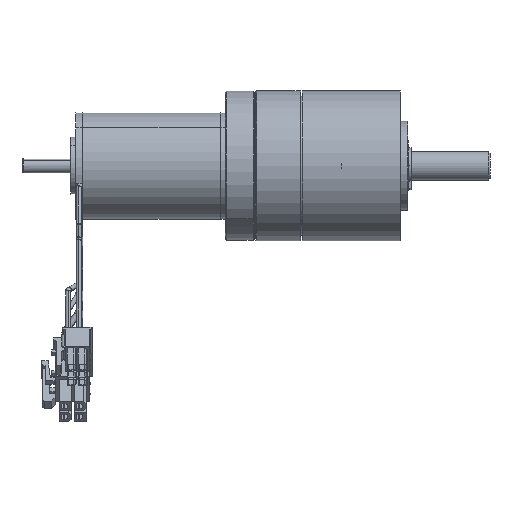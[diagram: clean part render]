
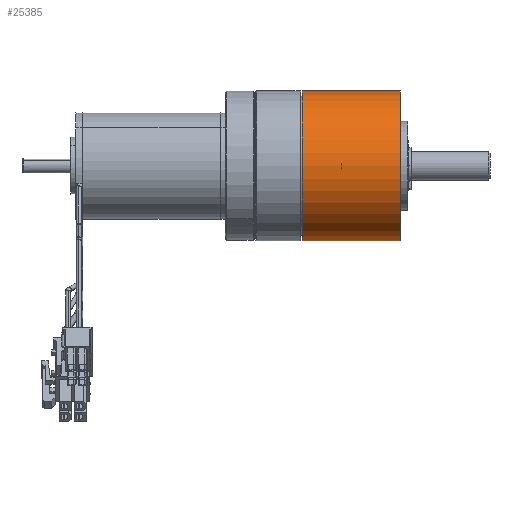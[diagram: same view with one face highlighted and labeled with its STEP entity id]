
A CAD part, front view. The second image highlights one B-rep face of the part: STEP entity #25385.
In plain terms, the highlighted cylindrical face has radius 21 mm (diameter 42 mm), a partial arc.
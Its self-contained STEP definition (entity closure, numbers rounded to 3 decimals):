
#3570 = ORIENTED_EDGE ( 'NONE', *, *, #33688, .T. ) ;
#4868 = FACE_OUTER_BOUND ( 'NONE', #21593, .T. ) ;
#6228 = AXIS2_PLACEMENT_3D ( 'NONE', #12636, #41901, #13669 ) ;
#6627 = CIRCLE ( 'NONE', #43755, 21. ) ;
#6799 = LINE ( 'NONE', #8210, #45381 ) ;
#8210 = CARTESIAN_POINT ( 'NONE',  ( -3.475, 0., -21. ) ) ;
#11434 = DIRECTION ( 'NONE',  ( -1., 0., 0. ) ) ;
#11742 = EDGE_CURVE ( 'NONE', #44141, #31765, #6627, .T. ) ;
#12636 = CARTESIAN_POINT ( 'NONE',  ( -2., 0., 0. ) ) ;
#13669 = DIRECTION ( 'NONE',  ( 0., 0., -1. ) ) ;
#16204 = CARTESIAN_POINT ( 'NONE',  ( 25.5, 0., 21. ) ) ;
#16415 = DIRECTION ( 'NONE',  ( 1., 0., 0. ) ) ;
#20843 = DIRECTION ( 'NONE',  ( 1., 0., 0. ) ) ;
#21593 = EDGE_LOOP ( 'NONE', ( #28540, #3570, #28102, #28104 ) ) ;
#22407 = CYLINDRICAL_SURFACE ( 'NONE', #30648, 21. ) ;
#25385 = ADVANCED_FACE ( 'NONE', ( #4868 ), #22407, .T. ) ;
#28102 = ORIENTED_EDGE ( 'NONE', *, *, #33250, .T. ) ;
#28104 = ORIENTED_EDGE ( 'NONE', *, *, #11742, .T. ) ;
#28540 = ORIENTED_EDGE ( 'NONE', *, *, #45262, .F. ) ;
#29800 = CARTESIAN_POINT ( 'NONE',  ( -2., 0., 21. ) ) ;
#30415 = DIRECTION ( 'NONE',  ( 0., 0., -1. ) ) ;
#30648 = AXIS2_PLACEMENT_3D ( 'NONE', #42749, #20843, #30415 ) ;
#31765 = VERTEX_POINT ( 'NONE', #16204 ) ;
#33250 = EDGE_CURVE ( 'NONE', #52013, #44141, #6799, .T. ) ;
#33688 = EDGE_CURVE ( 'NONE', #58552, #52013, #35925, .T. ) ;
#35067 = DIRECTION ( 'NONE',  ( 0., 0., -1. ) ) ;
#35925 = CIRCLE ( 'NONE', #6228, 21. ) ;
#40495 = CARTESIAN_POINT ( 'NONE',  ( 25.5, 0., -21. ) ) ;
#41901 = DIRECTION ( 'NONE',  ( 1., 0., 0. ) ) ;
#42749 = CARTESIAN_POINT ( 'NONE',  ( -3.475, 0., 0. ) ) ;
#43755 = AXIS2_PLACEMENT_3D ( 'NONE', #48666, #11434, #35067 ) ;
#44037 = DIRECTION ( 'NONE',  ( 1., 0., 0. ) ) ;
#44141 = VERTEX_POINT ( 'NONE', #40495 ) ;
#45262 = EDGE_CURVE ( 'NONE', #58552, #31765, #54499, .T. ) ;
#45381 = VECTOR ( 'NONE', #16415, 1000. ) ;
#48666 = CARTESIAN_POINT ( 'NONE',  ( 25.5, 0., 0. ) ) ;
#48704 = CARTESIAN_POINT ( 'NONE',  ( -2., 0., -21. ) ) ;
#52013 = VERTEX_POINT ( 'NONE', #48704 ) ;
#52242 = VECTOR ( 'NONE', #44037, 1000. ) ;
#54499 = LINE ( 'NONE', #57537, #52242 ) ;
#57537 = CARTESIAN_POINT ( 'NONE',  ( -3.475, 0., 21. ) ) ;
#58552 = VERTEX_POINT ( 'NONE', #29800 ) ;
